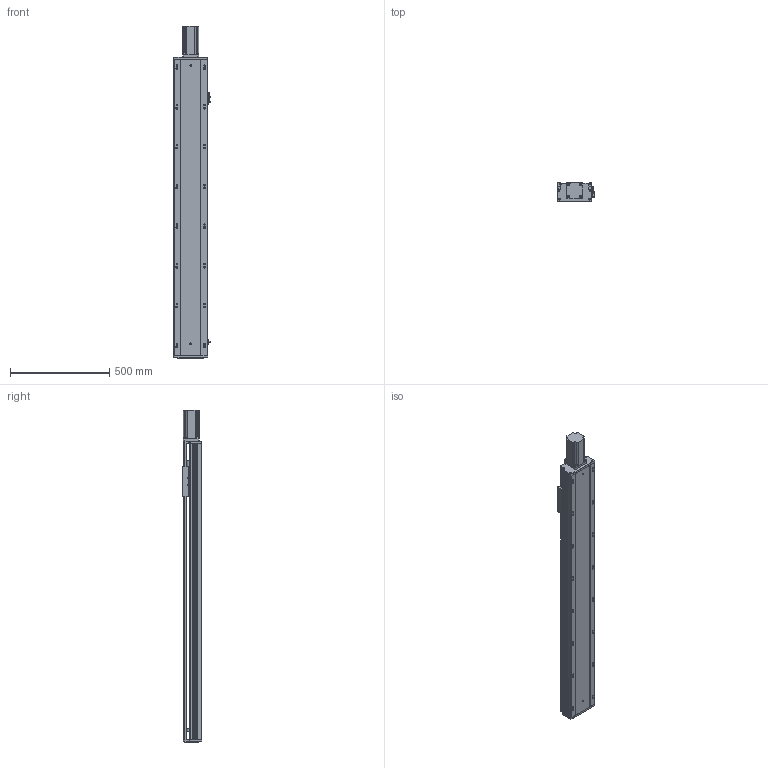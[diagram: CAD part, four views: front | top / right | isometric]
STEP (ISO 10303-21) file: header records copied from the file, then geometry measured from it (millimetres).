
FILE_DESCRIPTION (( 'STEP AP203' ), '1' );
FILE_NAME ('RY170-L2510-1200-MK.SLDASM_1150.step', '2021-02-20T05:12:02', ( '盈信电脑' ), ( '东莞市道滘镇水果街19号' ), 'SwSTEP 2.0', 'SolidWorks 2012', '' );
FILE_SCHEMA (( 'CONFIG_CONTROL_DESIGN' ));
Length unit declared in the file: millimetre
Products named in the file (12): RY170-L2510-1200-MK.SLDASM_1150; 侂狟750W萇儂ㄗ80遺ㄘ; 滅袉蝶18-15; 750W萇儂梓袧蛌諉啣; 滅袉蝶18-28; RY170ヶ醱裔啣; RY170臏賑輸25佪裝蹟譫; RY170外置感应片(200共用）; 覜茼ん672; RY170綴裔啣; RY170-1200倰第菁釱-MK_1150; RY170-1200倰第裔啣-MK_1150
Assembly tree (13 placements, depth 2):
  RY170-L2510-1200-MK.SLDASM_1150
    RY170-1200倰第菁釱-MK_1150
    RY170-1200倰第裔啣-MK_1150
    RY170臏賑輸25佪裝蹟譫
    RY170綴裔啣
    覜茼ん672  x3
    RY170外置感应片(200共用）
    RY170ヶ醱裔啣
    滅袉蝶18-28
    滅袉蝶18-15
    750W萇儂梓袧蛌諉啣
    侂狟750W萇儂ㄗ80遺ㄘ
Bounding box: 183.7 x 97 x 1671 mm (x, y, z)
Volume: 7879322.4 mm3; surface area: 2478590.1 mm2
Topology: 13 solids, 13 shells, 1654 faces, 4855 edges, 3086 vertices
Faces by surface type: cylinder 756, plane 711, cone 183, bspline 4
Entity records: 52622 total; most frequent: CARTESIAN_POINT 12002, ORIENTED_EDGE 8438, DIRECTION 8090, EDGE_CURVE 4219, AXIS2_PLACEMENT_3D 2854, VERTEX_POINT 2766, VECTOR 2382, LINE 2382
